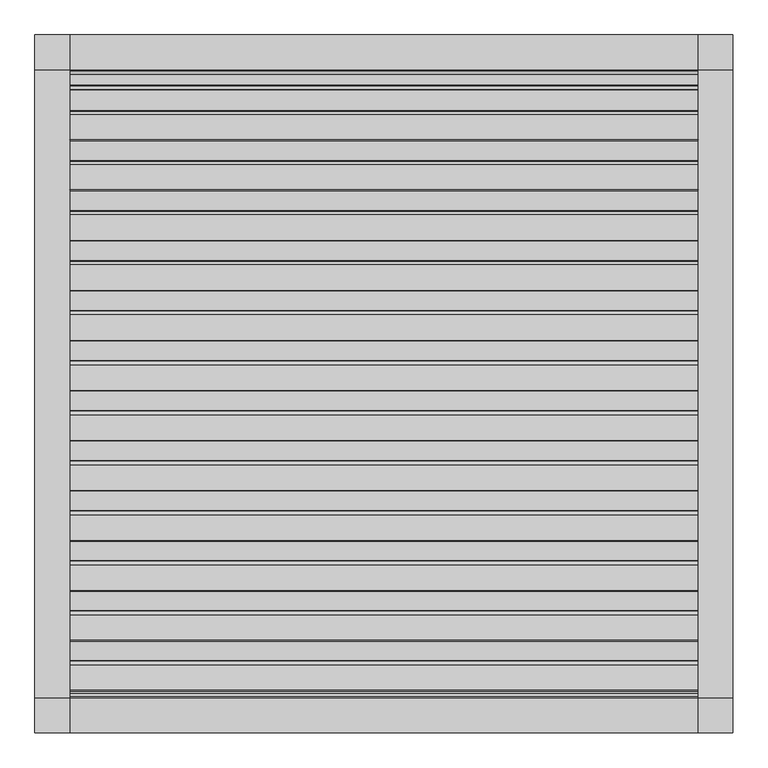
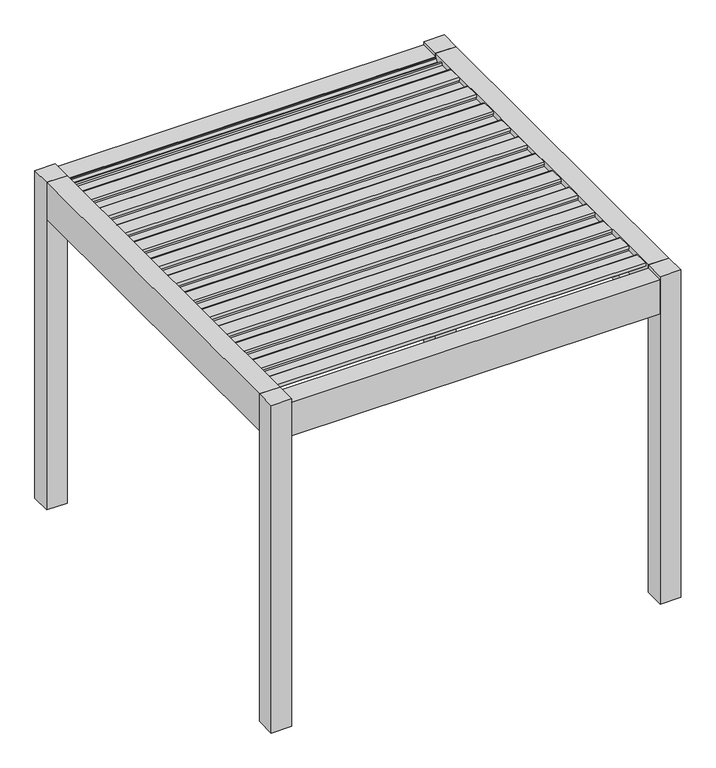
"""IFC4 building model written with IfcOpenShell, lengths in millimetres: proxy geometry, Renson_Amani_Patio_Cover : Renson_Amani_Patio_Cover."""

from ifc_helpers import new_model, si_unit, point, frame, frame_2d, origin, origin_with_axes, place, context, project, spatial, polyline, circle_curve, trimmed, segment, composite_curve, outline, extrude, source, transform, mapped, element, save


def generic_models_db7d870b(model_context):
    return source(origin(), model_context, "Body", "SweptSolid", [
        extrude(outline(composite_curve([segment(polyline([(-1073.7289238, 2483.35), (-1076.1490335, 2511.01198), (-1104.984284, 2512.3970364), (-1101.5469529, 2531.8911096), (-991.549838, 2526.6075693)]), True, "CONTINUOUS"), segment(trimmed(circle_curve(frame_2d((-992.26951, 2511.6248435)), 15.0), [point((-991.549838, 2526.6075693))], [point((-977.4973937, 2514.2295662))], False, "CARTESIAN"), True, "CONTINUOUS"), segment(polyline([(-977.4973937, 2514.2295662), (-974.1067023, 2495.0), (-886.3709263, 2495.0), (-883.3594689, 2512.0788237), (-868.0824984, 2511.3450182), (-865.6332517, 2483.35), (-1073.7289238, 2483.35)]), True, "CONTINUOUS")], self_intersect=False)), frame((-1350.0, 0.0, 0.0), z_axis=(1.0, 0.0, 0.0), x_axis=(0.0, 1.0, 0.0)), (0.0, 0.0, 1.0), 2700.0),
        extrude(outline(composite_curve([segment(polyline([(-858.7132078, 2483.35), (-861.1333174, 2511.01198), (-889.9685679, 2512.3970364), (-886.5312368, 2531.8911096), (-776.534122, 2526.6075693)]), True, "CONTINUOUS"), segment(trimmed(circle_curve(frame_2d((-777.2537939, 2511.6248435)), 15.0), [point((-776.534122, 2526.6075693))], [point((-762.4816776, 2514.2295662))], False, "CARTESIAN"), True, "CONTINUOUS"), segment(polyline([(-762.4816776, 2514.2295662), (-759.0909863, 2495.0), (-671.3552102, 2495.0), (-668.3437528, 2512.0788237), (-653.0667824, 2511.3450182), (-650.6175356, 2483.35), (-858.7132078, 2483.35)]), True, "CONTINUOUS")], self_intersect=False)), frame((-1350.0, 0.0, 0.0), z_axis=(1.0, 0.0, 0.0), x_axis=(0.0, 1.0, 0.0)), (0.0, 0.0, 1.0), 2700.0),
        extrude(outline(composite_curve([segment(polyline([(-643.6974917, 2483.35), (-646.1176014, 2511.01198), (-674.9528519, 2512.3970364), (-671.5155208, 2531.8911096), (-561.5184059, 2526.6075693)]), True, "CONTINUOUS"), segment(trimmed(circle_curve(frame_2d((-562.2380779, 2511.6248435)), 15.0), [point((-561.5184059, 2526.6075693))], [point((-547.4659616, 2514.2295662))], False, "CARTESIAN"), True, "CONTINUOUS"), segment(polyline([(-547.4659616, 2514.2295662), (-544.0752702, 2495.0), (-456.3394942, 2495.0), (-453.3280368, 2512.0788237), (-438.0510663, 2511.3450182), (-435.6018196, 2483.35), (-643.6974917, 2483.35)]), True, "CONTINUOUS")], self_intersect=False)), frame((-1350.0, 0.0, 0.0), z_axis=(1.0, 0.0, 0.0), x_axis=(0.0, 1.0, 0.0)), (0.0, 0.0, 1.0), 2700.0),
        extrude(outline(composite_curve([segment(polyline([(-428.6817757, 2483.35), (-431.1018854, 2511.01198), (-459.9371358, 2512.3970364), (-456.4998047, 2531.8911096), (-346.5026899, 2526.6075693)]), True, "CONTINUOUS"), segment(trimmed(circle_curve(frame_2d((-347.2223618, 2511.6248435)), 15.0), [point((-346.5026899, 2526.6075693))], [point((-332.4502455, 2514.2295662))], False, "CARTESIAN"), True, "CONTINUOUS"), segment(polyline([(-332.4502455, 2514.2295662), (-329.0595542, 2495.0), (-241.3237782, 2495.0), (-238.3123207, 2512.0788237), (-223.0353503, 2511.3450182), (-220.5861035, 2483.35), (-428.6817757, 2483.35)]), True, "CONTINUOUS")], self_intersect=False)), frame((-1350.0, 0.0, 0.0), z_axis=(1.0, 0.0, 0.0), x_axis=(0.0, 1.0, 0.0)), (0.0, 0.0, 1.0), 2700.0),
        extrude(outline(composite_curve([segment(polyline([(-213.6660597, 2483.35), (-216.0861693, 2511.01198), (-244.9214198, 2512.3970364), (-241.4840887, 2531.8911096), (-131.4869738, 2526.6075693)]), True, "CONTINUOUS"), segment(trimmed(circle_curve(frame_2d((-132.2066458, 2511.6248435)), 15.0), [point((-131.4869738, 2526.6075693))], [point((-117.4345295, 2514.2295662))], False, "CARTESIAN"), True, "CONTINUOUS"), segment(polyline([(-117.4345295, 2514.2295662), (-114.0438381, 2495.0), (-26.3080621, 2495.0), (-23.2966047, 2512.0788237), (-8.0196342, 2511.3450182), (-5.5703875, 2483.35), (-213.6660597, 2483.35)]), True, "CONTINUOUS")], self_intersect=False)), frame((-1350.0, 0.0, 0.0), z_axis=(1.0, 0.0, 0.0), x_axis=(0.0, 1.0, 0.0)), (0.0, 0.0, 1.0), 2700.0),
        extrude(outline(composite_curve([segment(polyline([(1.3496564, 2483.35), (-1.0704533, 2511.01198), (-29.9057037, 2512.3970364), (-26.4683726, 2531.8911096), (83.5287422, 2526.6075693)]), True, "CONTINUOUS"), segment(trimmed(circle_curve(frame_2d((82.8090703, 2511.6248435)), 15.0), [point((83.5287422, 2526.6075693))], [point((97.5811866, 2514.2295662))], False, "CARTESIAN"), True, "CONTINUOUS"), segment(polyline([(97.5811866, 2514.2295662), (100.9718779, 2495.0), (188.7076539, 2495.0), (191.7191114, 2512.0788237), (206.9960818, 2511.3450182), (209.4453286, 2483.35), (1.3496564, 2483.35)]), True, "CONTINUOUS")], self_intersect=False)), frame((-1350.0, 0.0, 0.0), z_axis=(1.0, 0.0, 0.0), x_axis=(0.0, 1.0, 0.0)), (0.0, 0.0, 1.0), 2700.0),
        extrude(outline(composite_curve([segment(polyline([(216.3653724, 2483.35), (213.9452628, 2511.01198), (185.1100123, 2512.3970364), (188.5473434, 2531.8911096), (298.5444582, 2526.6075693)]), True, "CONTINUOUS"), segment(trimmed(circle_curve(frame_2d((297.8247863, 2511.6248435)), 15.0), [point((298.5444582, 2526.6075693))], [point((312.5969026, 2514.2295662))], False, "CARTESIAN"), True, "CONTINUOUS"), segment(polyline([(312.5969026, 2514.2295662), (315.987594, 2495.0), (403.72337, 2495.0), (406.7348274, 2512.0788237), (422.0117979, 2511.3450182), (424.4610446, 2483.35), (216.3653724, 2483.35)]), True, "CONTINUOUS")], self_intersect=False)), frame((-1350.0, 0.0, 0.0), z_axis=(1.0, 0.0, 0.0), x_axis=(0.0, 1.0, 0.0)), (0.0, 0.0, 1.0), 2700.0),
        extrude(outline(composite_curve([segment(polyline([(431.3810885, 2483.35), (428.9609788, 2511.01198), (400.1257284, 2512.3970364), (403.5630594, 2531.8911096), (513.5601743, 2526.6075693)]), True, "CONTINUOUS"), segment(trimmed(circle_curve(frame_2d((512.8405024, 2511.6248435)), 15.0), [point((513.5601743, 2526.6075693))], [point((527.6126187, 2514.2295662))], False, "CARTESIAN"), True, "CONTINUOUS"), segment(polyline([(527.6126187, 2514.2295662), (531.00331, 2495.0), (618.739086, 2495.0), (621.7505434, 2512.0788237), (637.0275139, 2511.3450182), (639.4767606, 2483.35), (431.3810885, 2483.35)]), True, "CONTINUOUS")], self_intersect=False)), frame((-1350.0, 0.0, 0.0), z_axis=(1.0, 0.0, 0.0), x_axis=(0.0, 1.0, 0.0)), (0.0, 0.0, 1.0), 2700.0),
        extrude(outline(composite_curve([segment(polyline([(646.3968045, 2483.35), (643.9766949, 2511.01198), (615.1414444, 2512.3970364), (618.5787755, 2531.8911096), (728.5758903, 2526.6075693)]), True, "CONTINUOUS"), segment(trimmed(circle_curve(frame_2d((727.8562184, 2511.6248435)), 15.0), [point((728.5758903, 2526.6075693))], [point((742.6283347, 2514.2295662))], False, "CARTESIAN"), True, "CONTINUOUS"), segment(polyline([(742.6283347, 2514.2295662), (746.019026, 2495.0), (833.7548021, 2495.0), (836.7662595, 2512.0788237), (852.04323, 2511.3450182), (854.4924767, 2483.35), (646.3968045, 2483.35)]), True, "CONTINUOUS")], self_intersect=False)), frame((-1350.0, 0.0, 0.0), z_axis=(1.0, 0.0, 0.0), x_axis=(0.0, 1.0, 0.0)), (0.0, 0.0, 1.0), 2700.0),
        extrude(outline(composite_curve([segment(polyline([(861.4125206, 2483.35), (858.9924109, 2511.01198), (830.1571605, 2512.3970364), (833.5944915, 2531.8911096), (943.5916064, 2526.6075693)]), True, "CONTINUOUS"), segment(trimmed(circle_curve(frame_2d((942.8719345, 2511.6248435)), 15.0), [point((943.5916064, 2526.6075693))], [point((957.6440508, 2514.2295662))], False, "CARTESIAN"), True, "CONTINUOUS"), segment(polyline([(957.6440508, 2514.2295662), (961.0347421, 2495.0), (1048.7705181, 2495.0), (1051.7819755, 2512.0788237), (1067.058946, 2511.3450182), (1069.5081927, 2483.35), (861.4125206, 2483.35)]), True, "CONTINUOUS")], self_intersect=False)), frame((-1350.0, 0.0, 0.0), z_axis=(1.0, 0.0, 0.0), x_axis=(0.0, 1.0, 0.0)), (0.0, 0.0, 1.0), 2700.0),
        extrude(outline(composite_curve([segment(polyline([(-1288.7446399, 2483.35), (-1291.1647495, 2511.01198), (-1320.0, 2512.3970364), (-1316.5626689, 2531.8911096), (-1206.5655541, 2526.6075693)]), True, "CONTINUOUS"), segment(trimmed(circle_curve(frame_2d((-1207.285226, 2511.6248435)), 15.0), [point((-1206.5655541, 2526.6075693))], [point((-1192.5131097, 2514.2295662))], False, "CARTESIAN"), True, "CONTINUOUS"), segment(polyline([(-1192.5131097, 2514.2295662), (-1189.1224184, 2495.0), (-1101.3866423, 2495.0), (-1098.3751849, 2512.0788237), (-1083.0982144, 2511.3450182), (-1080.6489677, 2483.35), (-1288.7446399, 2483.35)]), True, "CONTINUOUS")], self_intersect=False)), frame((-1350.0, 0.0, 0.0), z_axis=(1.0, 0.0, 0.0), x_axis=(0.0, 1.0, 0.0)), (0.0, 0.0, 1.0), 2700.0),
        extrude(outline(composite_curve([segment(polyline([(1076.4282366, 2483.35), (1074.008127, 2511.01198), (1045.1728765, 2512.3970364), (1048.6102076, 2531.8911096), (1158.6073224, 2526.6075693)]), True, "CONTINUOUS"), segment(trimmed(circle_curve(frame_2d((1157.8876505, 2511.6248435)), 15.0), [point((1158.6073224, 2526.6075693))], [point((1172.6597668, 2514.2295662))], False, "CARTESIAN"), True, "CONTINUOUS"), segment(polyline([(1172.6597668, 2514.2295662), (1176.0504581, 2495.0), (1263.7862342, 2495.0), (1266.7976916, 2512.0788237), (1282.0746621, 2511.3450182), (1284.5239088, 2483.35), (1076.4282366, 2483.35)]), True, "CONTINUOUS")], self_intersect=False)), frame((-1350.0, 0.0, 0.0), z_axis=(1.0, 0.0, 0.0), x_axis=(0.0, 1.0, 0.0)), (0.0, 0.0, 1.0), 2700.0),
        extrude(outline(polyline([(1500.0, -1350.0), (1500.0, -1500.0), (1350.0, -1500.0), (1350.0, -1350.0), (1500.0, -1350.0)])), origin_with_axes(), (0.0, 0.0, 1.0), 2535.0),
        extrude(outline(polyline([(1500.0, 1500.0), (1500.0, 1350.0), (1350.0, 1350.0), (1350.0, 1500.0), (1500.0, 1500.0)])), origin_with_axes(), (0.0, 0.0, 1.0), 2535.0),
        extrude(outline(polyline([(-1350.0, 1350.0), (-1500.0, 1350.0), (-1500.0, 1500.0), (-1350.0, 1500.0), (-1350.0, 1350.0)])), origin_with_axes(), (0.0, 0.0, 1.0), 2535.0),
        extrude(outline(polyline([(-1350.0, -1350.0), (-1350.0, -1500.0), (-1500.0, -1500.0), (-1500.0, -1350.0), (-1350.0, -1350.0)])), origin_with_axes(), (0.0, 0.0, 1.0), 2535.0),
        extrude(outline(polyline([(1350.0, 2466.6559373), (1290.0, 2466.6559373), (1286.2487113, 2480.6555802), (1329.5940945, 2480.6555802), (1345.0, 2496.400763), (1345.0, 2504.2449277), (1350.0, 2504.6823598), (1350.0, 2466.6559373)])), frame((-1350.0, 0.0, 0.0), z_axis=(1.0, 0.0, 0.0), x_axis=(0.0, 1.0, 0.0)), (0.0, 0.0, 1.0), 2700.0),
        extrude(outline(polyline([(-1350.0, 2510.0), (-1350.0, 2479.6823598), (-1345.0, 2479.2449277), (-1345.0, 2471.400763), (-1329.2544156, 2455.6555802), (-1319.9090324, 2455.6555802), (-1323.6603211, 2441.6559373), (-1350.0, 2441.6559373), (-1350.0, 2250.0), (-1500.0, 2250.0), (-1500.0, 2510.0), (-1350.0, 2510.0)])), frame((-1350.0, 0.0, 0.0), z_axis=(1.0, 0.0, 0.0), x_axis=(0.0, 1.0, 0.0)), (0.0, 0.0, 1.0), 2700.0),
        extrude(outline(polyline([(1350.0, 1500.0), (1350.0, 1350.0), (-1350.0, 1350.0), (-1350.0, 1500.0), (1350.0, 1500.0)])), frame((0.0, 0.0, 2250.0), z_axis=(0.0, 0.0, 1.0), x_axis=(1.0, 0.0, 0.0)), (0.0, 0.0, 1.0), 260.0),
        extrude(outline(polyline([(2535.0, -1350.0), (2535.0, -1500.0), (2250.0, -1500.0), (2250.0, -1280.0000001), (2322.0, -1280.0000001), (2322.0, -1350.0), (2535.0, -1350.0)])), frame((0.0, -1350.0, 0.0), z_axis=(0.0, 1.0, 0.0), x_axis=(0.0, 0.0, 1.0)), (0.0, 0.0, 1.0), 2700.0),
        extrude(outline(polyline([(2250.0, 1500.0), (2535.0, 1500.0), (2535.0, 1350.0), (2322.0, 1350.0), (2322.0, 1280.0000001), (2250.0, 1280.0000001), (2250.0, 1500.0)])), frame((0.0, -1350.0, 0.0), z_axis=(0.0, 1.0, 0.0), x_axis=(0.0, 0.0, 1.0)), (0.0, 0.0, 1.0), 2700.0),
    ])


if __name__ == "__main__":
    model = new_model("IFC4")
    model_context = context("Model", 3, world=origin())
    ifc_project = project(units=[si_unit("LENGTHUNIT", "METRE", prefix="MILLI")], contexts=[model_context])
    site = spatial("IfcSite", under=ifc_project)
    building = spatial("IfcBuilding", under=site)
    placement = place(None, origin())
    generic_models_shape = generic_models_db7d870b(model_context)
    element("IfcBuildingElementProxy", 1, Name="Renson_Amani_Patio_Cover : Renson_Amani_Patio_Cover", ObjectType="Renson_Amani_Patio_Cover : Renson_Amani_Patio_Cover", at=placement, inside=building, context=model_context, shape_type="MappedRepresentation", body=[
        mapped(generic_models_shape, transform((0.0, 0.0, 0.0), x_axis=(1.0, 0.0, 0.0), y_axis=(0.0, 1.0, 0.0), z_axis=(0.0, 0.0, 1.0))),
    ])
    save(model, "model.ifc")
